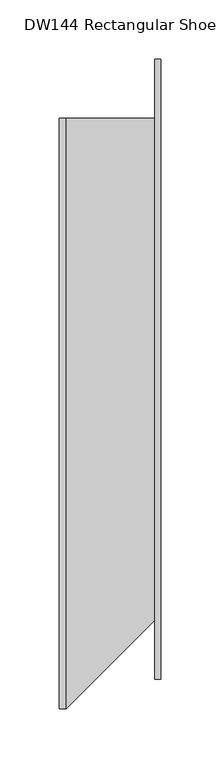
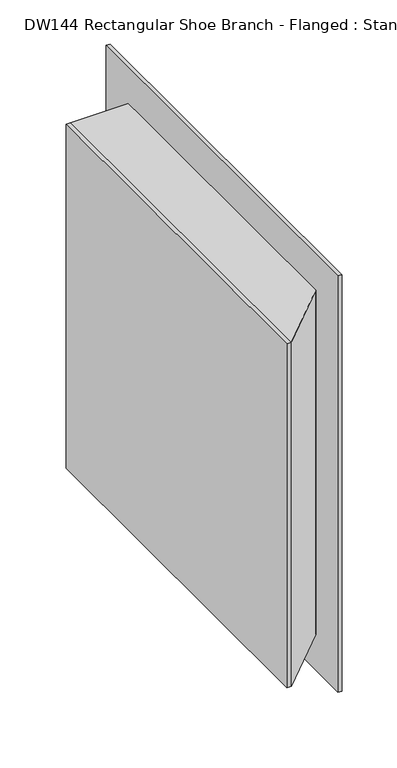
"""IFC4 building model written with IfcOpenShell, lengths in millimetres: duct fitting geometry, DW144 Rectangular Shoe Branch - Flanged : Standard."""

from ifc_helpers import new_model, si_unit, frame, origin, place, context, project, spatial, polyline, outline, extrude, source, transform, mapped, element, save


def dw144_rectangular_shoe_branch_flanged_standard_e3abb40c(model_context):
    return source(origin(), model_context, "Body", "SweptSolid", [
        extrude(outline(polyline([(80.0, 212.5), (80.0, -212.5), (75.0, -212.5), (0.0, -287.5), (0.0, 212.5), (80.0, 212.5)])), frame((0.0, 0.0, -237.5), z_axis=(0.0, 0.0, 1.0), x_axis=(1.0, 0.0, 0.0)), (0.0, 0.0, 1.0), 475.0),
        extrude(outline(polyline([(-6.096, -287.5), (-6.096, 212.5), (0.0, 212.5), (0.0, -287.5), (-6.096, -287.5)])), frame((0.0, 0.0, -237.5), z_axis=(0.0, 0.0, 1.0), x_axis=(1.0, 0.0, 0.0)), (0.0, 0.0, 1.0), 475.0),
        extrude(outline(polyline([(80.0, 262.5), (80.0, -262.5), (75.0, -262.5), (75.0, 262.5), (80.0, 262.5)])), frame((0.0, 0.0, -287.5), z_axis=(0.0, 0.0, 1.0), x_axis=(1.0, 0.0, 0.0)), (0.0, 0.0, 1.0), 575.0),
    ])


if __name__ == "__main__":
    model = new_model("IFC4")
    model_context = context("Model", 3, world=origin())
    ifc_project = project(units=[si_unit("LENGTHUNIT", "METRE", prefix="MILLI")], contexts=[model_context])
    site = spatial("IfcSite", under=ifc_project)
    building = spatial("IfcBuilding", under=site)
    placement = place(None, origin())
    dw144_rectangular_shoe_branch_flanged_standard_shape = dw144_rectangular_shoe_branch_flanged_standard_e3abb40c(model_context)
    element("IfcDuctFitting", 1, ObjectType="DW144 Rectangular Shoe Branch - Flanged : Standard", at=placement, inside=building, context=model_context, shape_type="MappedRepresentation", body=[
        mapped(dw144_rectangular_shoe_branch_flanged_standard_shape, transform((0.0, 0.0, 0.0), x_axis=(1.0, 0.0, 0.0), y_axis=(0.0, 1.0, 0.0), z_axis=(0.0, 0.0, 1.0))),
    ])
    save(model, "model.ifc")
